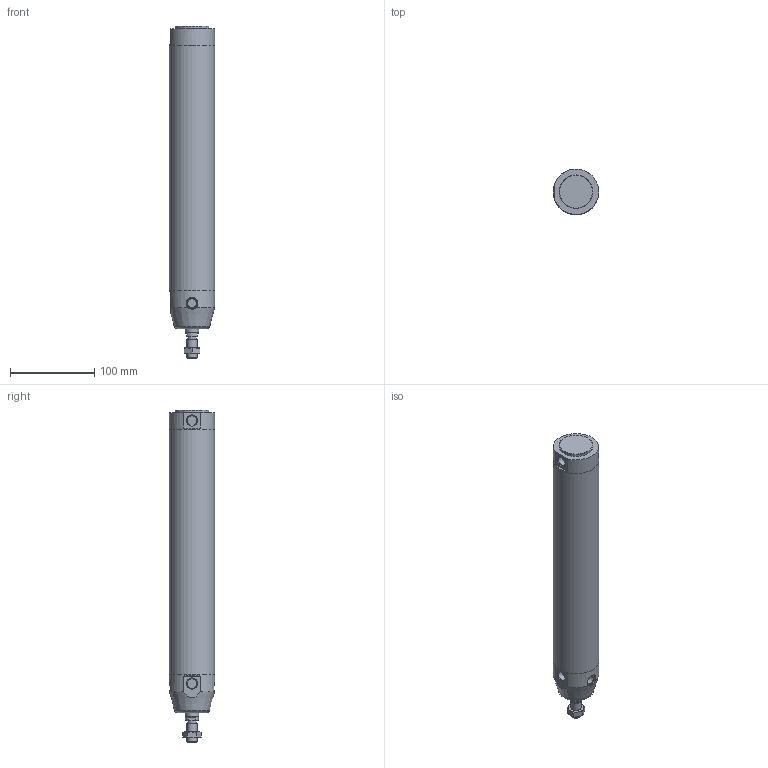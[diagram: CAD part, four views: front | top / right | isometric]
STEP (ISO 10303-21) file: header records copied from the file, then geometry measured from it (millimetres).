
FILE_DESCRIPTION(/* description */ (''),/* implementation_level */ '2;1');
FILE_NAME(/* name */ 'I:\Area Tecnica\Documenti\A-Manieri\_Inventor\12X\12X#E_###_####_#_#\12XAE_050_0250_#_#.stp',/* time_stamp */ '2015-05-08T13:40:38+02:00',/* author */ ('maniean1'),/* organization */ ('Pneumax S.p.A.'),/* preprocessor_version */ 'ST-DEVELOPER v15.2',/* originating_system */ 'Autodesk Inventor 2014',/* authorisation */ '');
FILE_SCHEMA (('AUTOMOTIVE_DESIGN { 1 0 10303 214 3 1 1 }'));
Length unit declared in the file: millimetre
Products named in the file (6): C1250_619-0250; 12X50_622; S12X50_0250; 12X_50_11; 12X50_611; 12XAE_050_0250_#_#
Bounding box: 54 x 54 x 395 mm (x, y, z)
Volume: 370646.2 mm3; surface area: 145831.4 mm2
Topology: 5 solids, 5 shells, 65 faces, 132 edges, 84 vertices
Faces by surface type: plane 33, cylinder 18, cone 13, torus 1
Full cylindrical faces by diameter (mm): 10.2 x1, 10.9 x2, 11.4 x2, 12 x2, 14 x1, 14.1 x2, 15.6 x1, 16 x1, 40 x1, 50 x2, 54 x3
Entity records: 1691 total; most frequent: CARTESIAN_POINT 368, DIRECTION 279, ORIENTED_EDGE 190, AXIS2_PLACEMENT_3D 129, EDGE_LOOP 108, EDGE_CURVE 95, VERTEX_POINT 77, ADVANCED_FACE 65
